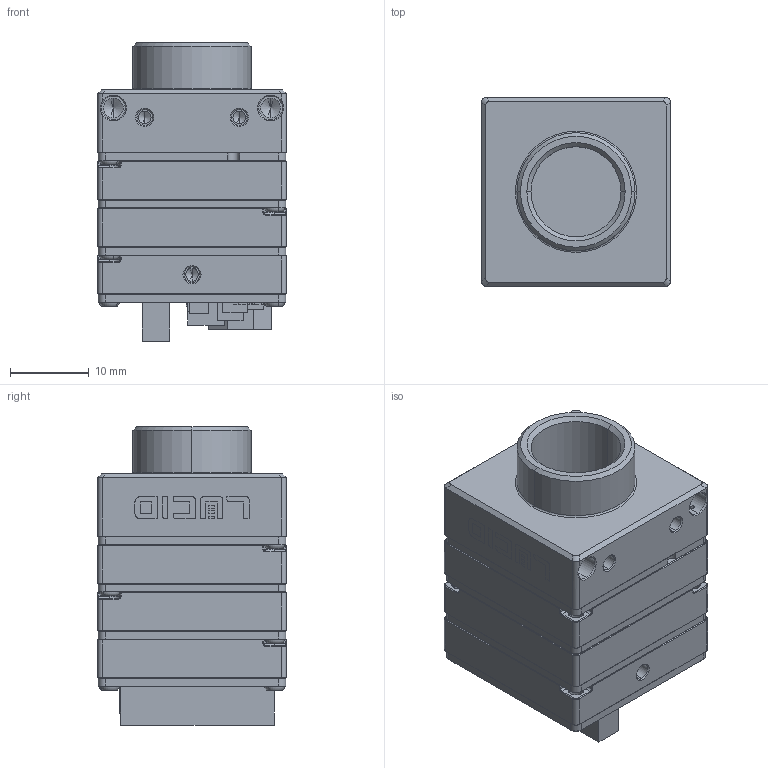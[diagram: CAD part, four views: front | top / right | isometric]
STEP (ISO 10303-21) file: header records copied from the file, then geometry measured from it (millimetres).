
FILE_DESCRIPTION (( 'STEP AP203' ), '1' );
FILE_NAME ('250-639-A.STEP', '2020-01-17T22:20:23', ( '' ), ( '' ), 'SwSTEP 2.0', 'SolidWorks 2017', '' );
FILE_SCHEMA (( 'CONFIG_CONTROL_DESIGN' ));
Products named in the file (1): 250-639-A
Bounding box: 24 x 24 x 37.95 mm (x, y, z)
Surface area: 15505.9 mm2 (no closed solid volume)
Topology: 0 solids, 177 shells, 8265 faces, 20132 edges, 11414 vertices
Faces by surface type: plane 3902, cylinder 2750, bspline 1159, cone 291, torus 99, sphere 64
Entity records: 244758 total; most frequent: CARTESIAN_POINT 60385, DIRECTION 38329, ORIENTED_EDGE 38102, EDGE_CURVE 19052, AXIS2_PLACEMENT_3D 12876, LINE 12577, VECTOR 12577, VERTEX_POINT 11410
